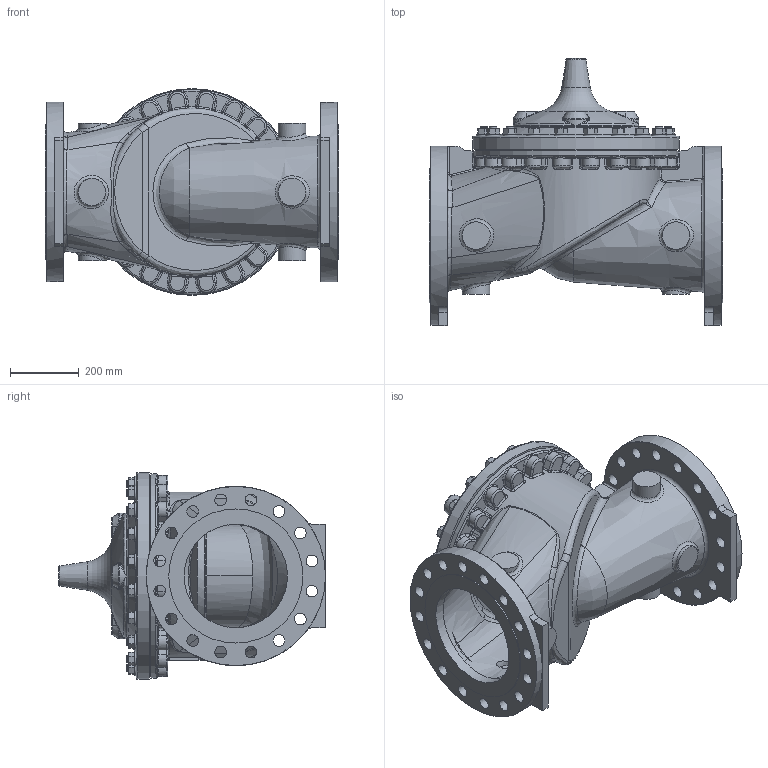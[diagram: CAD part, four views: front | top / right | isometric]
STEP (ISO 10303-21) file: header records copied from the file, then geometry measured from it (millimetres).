
FILE_DESCRIPTION(/* description */ (''),/* implementation_level */ '2;1');
FILE_NAME(/* name */ 'G:\Doc_Liberes\SymbolesCAD\Modeles_3D\FichierSTP\VanneDeBase\NGE300-40RF.stp',/* time_stamp */ '2023-08-18T11:54:11+02:00',/* author */ ('theo'),/* organization */ (''),/* preprocessor_version */ 'ST-DEVELOPER v18.1',/* originating_system */ 'Autodesk Inventor 2022',/* authorisation */ '');
FILE_SCHEMA (('AUTOMOTIVE_DESIGN { 1 0 10303 214 3 1 1 }'));
Products named in the file (1): nge300-40_Simplifier_1
Bounding box: 850 x 774.28 x 599.95 mm (x, y, z)
Volume: 44638421.2 mm3; surface area: 4174491.9 mm2
Topology: 1 solids, 1 shells, 2085 faces, 5161 edges, 3166 vertices
Faces by surface type: plane 594, cone 488, bspline 464, cylinder 336, torus 163, sphere 40
Full cylindrical faces by diameter (mm): 22.05 x40, 34 x32, 44.45 x20, 68.263 x1, 80 x3, 282.5 x1, 300 x2, 324 x1, 330.2 x1, 330.7 x1, 365.252 x1, 389 x2, 520 x2, 580.5 x1, 581.025 x1, 599.948 x1
Entity records: 129629 total; most frequent: CARTESIAN_POINT 84406, ORIENTED_EDGE 10302, DIRECTION 8458, EDGE_CURVE 5151, AXIS2_PLACEMENT_3D 3679, VERTEX_POINT 3166, EDGE_LOOP 2291, FACE_OUTER_BOUND 2085
